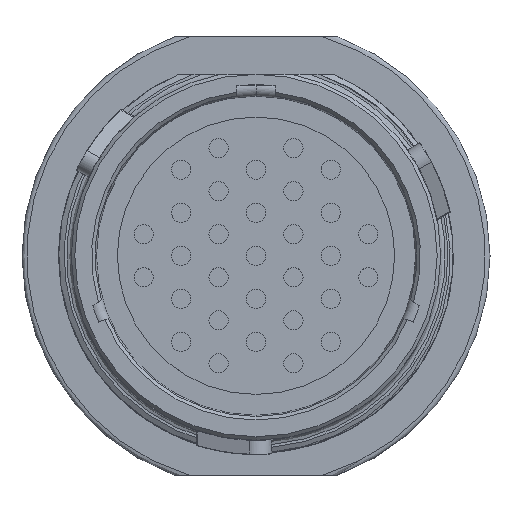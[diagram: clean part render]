
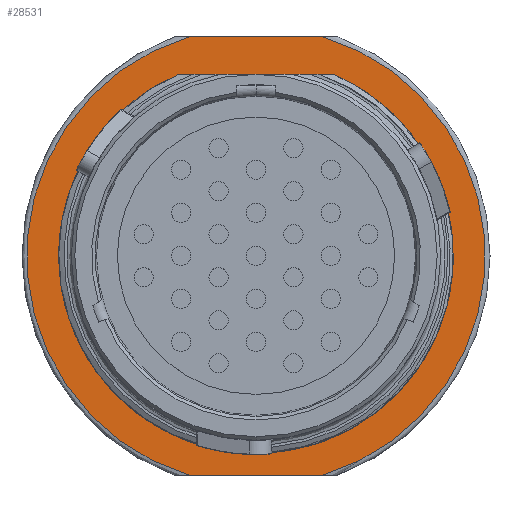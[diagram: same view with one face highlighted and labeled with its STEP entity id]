
A CAD part, top view. The second image highlights one B-rep face of the part: STEP entity #28531.
In plain terms, the highlighted planar face has unit normal (0, 0, 1).
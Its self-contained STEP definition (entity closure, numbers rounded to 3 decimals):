
#798=CARTESIAN_POINT('',(0.,0.,-26.162));
#799=DIRECTION('',(0.,0.,-1.));
#800=DIRECTION('',(0.393,0.919,0.));
#801=AXIS2_PLACEMENT_3D('',#798,#799,#800);
#6148=DIRECTION('',(-1.,0.,0.));
#6149=VECTOR('',#6148,14.502);
#6150=CARTESIAN_POINT('',(7.251,-23.813,-26.162));
#6151=LINE('',#6150,#6149);
#6152=DIRECTION('',(1.,0.,0.));
#6153=VECTOR('',#6152,14.502);
#6154=CARTESIAN_POINT('',(-7.251,23.813,-26.162));
#6155=LINE('',#6154,#6153);
#6156=DIRECTION('',(1.,0.,0.));
#6157=VECTOR('',#6156,16.85);
#6158=CARTESIAN_POINT('',(-8.425,19.685,-26.162));
#6159=LINE('',#6158,#6157);
#6160=CARTESIAN_POINT('',(0.,0.,-26.162));
#6161=DIRECTION('',(0.,0.,1.));
#6162=DIRECTION('',(0.291,-0.957,0.));
#6163=AXIS2_PLACEMENT_3D('',#6160,#6161,#6162);
#6170=CARTESIAN_POINT('',(7.251,23.813,-26.162));
#6220=CARTESIAN_POINT('',(-7.251,23.813,-26.162));
#6222=CARTESIAN_POINT('',(0.,0.,-26.162));
#6223=DIRECTION('',(0.,0.,1.));
#6224=DIRECTION('',(-0.291,0.957,0.));
#6225=AXIS2_PLACEMENT_3D('',#6222,#6223,#6224);
#6256=CARTESIAN_POINT('',(7.251,-23.813,-26.162));
#6258=CARTESIAN_POINT('',(-7.251,-23.813,-26.162));
#10763=CARTESIAN_POINT('',(-8.425,19.685,-26.162));
#10765=VERTEX_POINT('',#10763);
#10804=CARTESIAN_POINT('',(8.425,19.685,-26.162));
#10806=VERTEX_POINT('',#10804);
#10892=VERTEX_POINT('',#6170);
#10895=VERTEX_POINT('',#6256);
#10896=VERTEX_POINT('',#6258);
#10899=VERTEX_POINT('',#6220);
#28512=CARTESIAN_POINT('',(0.,0.,-26.162));
#28513=DIRECTION('',(0.,0.,1.));
#28514=DIRECTION('',(0.,1.,0.));
#28515=AXIS2_PLACEMENT_3D('',#28512,#28513,#28514);
#28516=PLANE('',#28515);
#28518=ORIENTED_EDGE('',*,*,#28517,.F.);
#28520=ORIENTED_EDGE('',*,*,#28519,.T.);
#28522=ORIENTED_EDGE('',*,*,#28521,.F.);
#28524=ORIENTED_EDGE('',*,*,#28523,.T.);
#28525=EDGE_LOOP('',(#28518,#28520,#28522,#28524));
#28526=FACE_OUTER_BOUND('',#28525,.F.);
#28527=ORIENTED_EDGE('',*,*,#12322,.F.);
#28528=ORIENTED_EDGE('',*,*,#12150,.F.);
#28529=EDGE_LOOP('',(#28527,#28528));
#28530=FACE_BOUND('',#28529,.F.);
#28531=ADVANCED_FACE('',(#28526,#28530),#28516,.T.);
#802=CIRCLE('',#801,21.412);
#6164=CIRCLE('',#6163,24.892);
#6226=CIRCLE('',#6225,24.892);
#12150=EDGE_CURVE('',#10765,#10806,#6159,.T.);
#12322=EDGE_CURVE('',#10806,#10765,#802,.T.);
#28517=EDGE_CURVE('',#10895,#10892,#6164,.T.);
#28519=EDGE_CURVE('',#10895,#10896,#6151,.T.);
#28521=EDGE_CURVE('',#10899,#10896,#6226,.T.);
#28523=EDGE_CURVE('',#10899,#10892,#6155,.T.);
